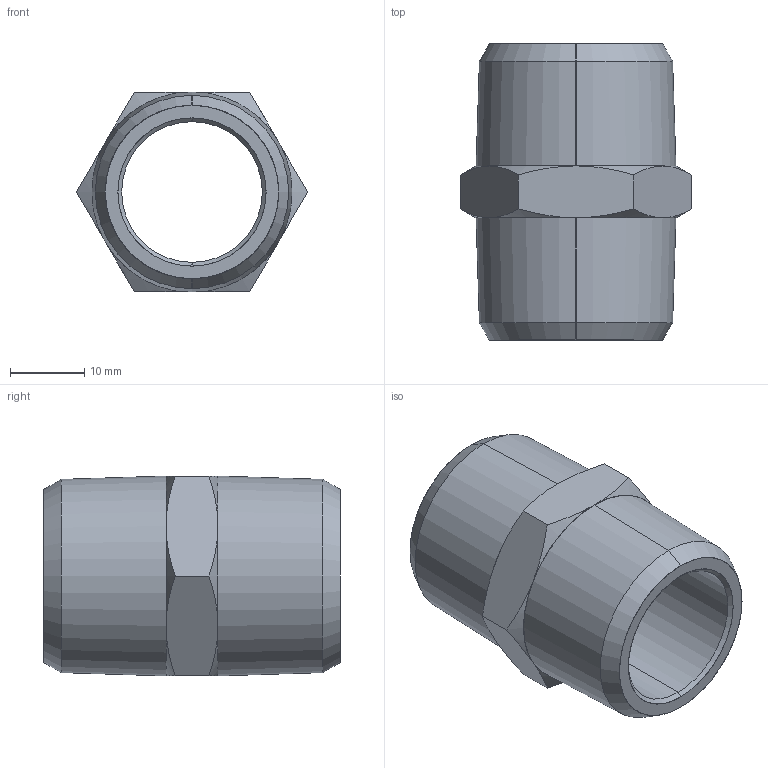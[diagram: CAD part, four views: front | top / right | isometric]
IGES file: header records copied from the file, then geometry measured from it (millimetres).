
Start section: SolidWorks IGES file using analytic representation for surfaces
Global section: file name: K:\Disegni Esecutivi\Accessori\2000\ASSIEMI_.IGES_50000\0200000010700.IGS; native system: SolidWorks 2007; preprocessor: SolidWorks 2007; author: cad02; date: 071018.103920; units: millimetre
Bounding box: 31.18 x 40 x 27 mm (x, y, z)
Surface area: 6143.5 mm2 (no closed solid volume)
Topology: 0 solids, 0 shells, 36 faces, 560 edges, 560 vertices
Faces by surface type: revolution 26, bspline 10
